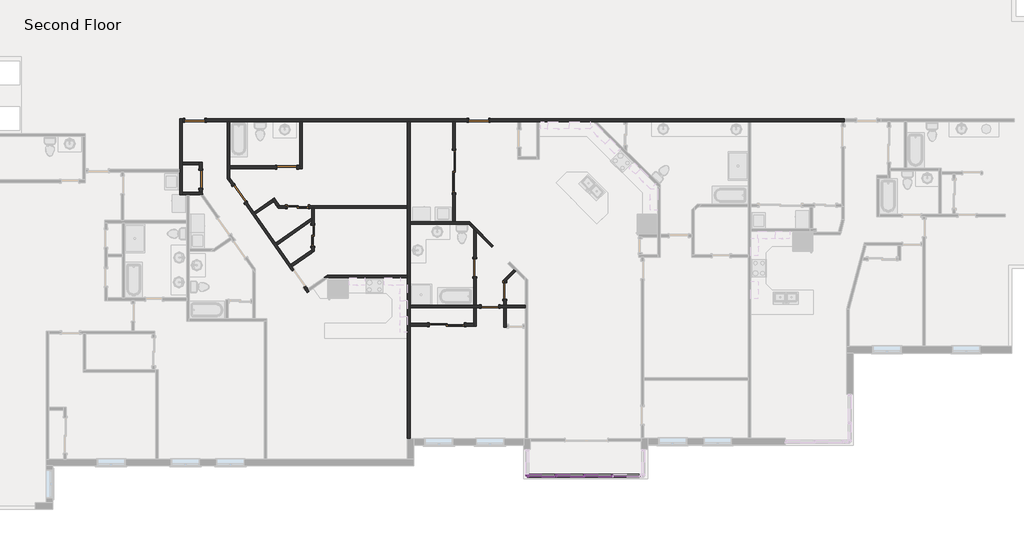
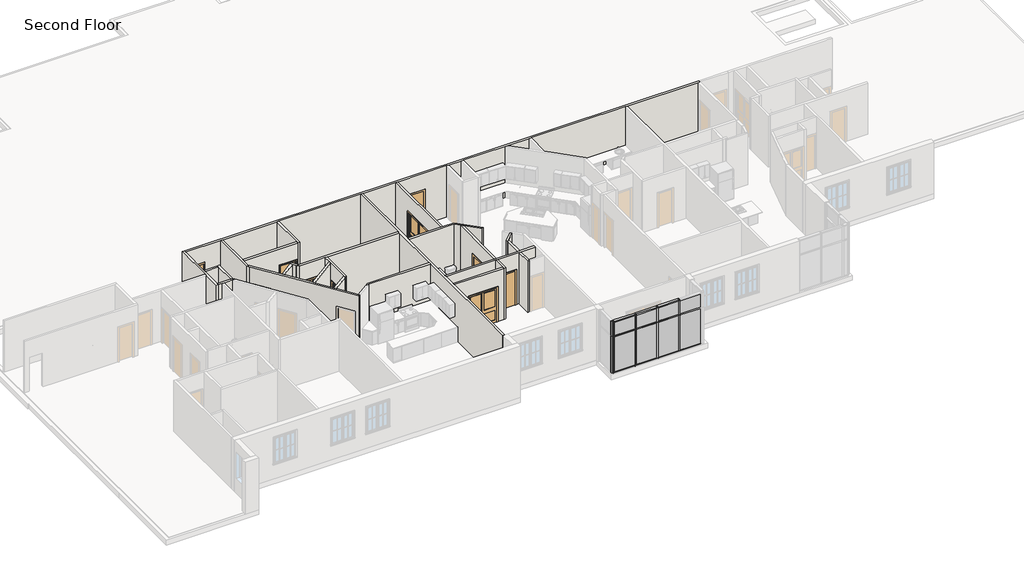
# One storey, part 3 of 17: 27 walls, 20 members, 12 doors, 8 plates.
"""IFC4 building model written with IfcOpenShell, lengths in millimetres."""

from ifc_helpers import new_model, si_unit, frame, origin, place, context, project, spatial, polyline, outline, extrude, faceted_brep, transform, mapped, element, save
from components import door_f2586ccf, door_d8f5dbb5, door_f2b275c1, door_825b8444, door_c29894e6, door_88c23cd7, door_2e7ec8be, door_caaf2a11, rectangular_mullion_rectangular_mullion_1_fa3625a1, rectangular_mullion_rectangular_mullion_1_7cbf0b94, rectangular_mullion_rectangular_mullion_1_6186cc23, rectangular_mullion_rectangular_mullion_1_049a2e78, rectangular_mullion_rectangular_mullion_1_a50b3cda, rectangular_mullion_rectangular_mullion_1_5cd4c5ac, system_panel_glazed_0ed27d1d, system_panel_glazed_134bacdb

model = new_model("IFC4")

# Units and contexts
model_context = context("Model", 3, world=origin())
ifc_project = project(units=[si_unit("LENGTHUNIT", "METRE", prefix="MILLI")], contexts=[model_context])

# Site, building, storey
site = spatial("IfcSite", under=ifc_project)
building = spatial("IfcBuilding", under=site)
storey = spatial("IfcBuildingStorey", under=building, Name="Second Floor", Elevation=3048.0)

# Doors
placement = place(None, origin())
door_shape = door_f2586ccf(model_context)
element("IfcDoor", 1, ObjectType="Single-Flush : 28\" x 80\"", at=placement, inside=storey, context=model_context, shape_type="MappedRepresentation", body=[
    mapped(door_shape, transform((31589.3040357, -12033.9392565, 3048.0), x_axis=(0.0, 1.0, 0.0), y_axis=(-1.0, 0.0, 0.0), z_axis=(0.0, 0.0, 1.0))),
])
door_2_shape = door_d8f5dbb5(model_context)
element("IfcDoor", 2, ObjectType="Single-Flush : 30\" x 80\"", at=placement, inside=storey, context=model_context, shape_type="MappedRepresentation", body=[
    mapped(door_2_shape, transform((18439.6602461, -7206.7219726, 3048.0), x_axis=(0.0, -1.0, 0.0), y_axis=(1.0, 0.0, 0.0), z_axis=(0.0, 0.0, 1.0))),
])
door_3_shape = door_f2b275c1(model_context)
element("IfcDoor", 3, ObjectType="Single-Flush : 30\" x 80\"", at=placement, inside=storey, context=model_context, shape_type="MappedRepresentation", body=[
    mapped(door_3_shape, transform((30941.6040357, -12707.1736347, 3048.0), x_axis=(1.0, 0.0, 0.0), y_axis=(0.0, 1.0, 0.0), z_axis=(0.0, 0.0, 1.0))),
])
element("IfcDoor", 4, ObjectType="Single-Flush : 30\" x 80\"", at=placement, inside=storey, context=model_context, shape_type="MappedRepresentation", body=[
    mapped(door_3_shape, transform((30293.9040357, -11030.7736347, 3048.0), x_axis=(0.0, -1.0, 0.0), y_axis=(1.0, 0.0, 0.0), z_axis=(0.0, 0.0, 1.0))),
])
door_4_shape = door_825b8444(model_context)
element("IfcDoor", 5, ObjectType="Single-Flush : 34\" x 80\"", at=placement, inside=storey, context=model_context, shape_type="MappedRepresentation", body=[
    mapped(door_4_shape, transform((20114.7748093, -7834.753233, 3048.0), x_axis=(-0.5735764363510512, 0.8191520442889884, 0.0), y_axis=(-0.8191520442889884, -0.5735764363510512, 0.0), z_axis=(0.0, 0.0, 1.0))),
])
door_5_shape = door_c29894e6(model_context)
element("IfcDoor", 6, ObjectType="Single-Flush : 34\" x 80\"", at=placement, inside=storey, context=model_context, shape_type="MappedRepresentation", body=[
    mapped(door_5_shape, transform((18188.1416991, -4651.3917963, 3048.0), x_axis=(-1.0, 0.0, 0.0), y_axis=(0.0, -1.0, 0.0), z_axis=(0.0, 0.0, 1.0))),
])
element("IfcDoor", 7, ObjectType="Single-Flush : 34\" x 80\"", at=placement, inside=storey, context=model_context, shape_type="MappedRepresentation", body=[
    mapped(door_5_shape, transform((22162.0691338, -6683.3917963, 3048.0), x_axis=(1.0, 0.0, 0.0), y_axis=(0.0, 1.0, 0.0), z_axis=(0.0, 0.0, 1.0))),
])
element("IfcDoor", 8, ObjectType="Single-Flush : 34\" x 80\"", at=placement, inside=storey, context=model_context, shape_type="MappedRepresentation", body=[
    mapped(door_5_shape, transform((30456.3297218, -4651.3917963, 3048.0), x_axis=(-1.0, 0.0, 0.0), y_axis=(0.0, -1.0, 0.0), z_axis=(0.0, 0.0, 1.0))),
])
door_6_shape = door_88c23cd7(model_context)
element("IfcDoor", 9, ObjectType="Sliding-Closet : 36\" x 80\"", at=placement, inside=storey, context=model_context, shape_type="MappedRepresentation", body=[
    mapped(door_6_shape, transform((23160.2196169, -9642.0427038, 3048.0), x_axis=(0.0, -1.0, 0.0), y_axis=(1.0, 0.0, 0.0), z_axis=(0.0, 0.0, 1.0))),
])
element("IfcDoor", 10, ObjectType="Sliding-Closet : 36\" x 80\"", at=placement, inside=storey, context=model_context, shape_type="MappedRepresentation", body=[
    mapped(door_6_shape, transform((22626.8196169, -8270.4427038, 3048.0), x_axis=(-1.0, 0.0, 0.0), y_axis=(0.0, -1.0, 0.0), z_axis=(0.0, 0.0, 1.0))),
])
door_7_shape = door_2e7ec8be(model_context)
element("IfcDoor", 11, ObjectType="Sliding-Closet : 60\" x 80\"", at=placement, inside=storey, context=model_context, shape_type="MappedRepresentation", body=[
    mapped(door_7_shape, transform((29074.7040357, -13371.9064679, 3048.0), x_axis=(-1.0, 0.0, 0.0), y_axis=(0.0, -1.0, 0.0), z_axis=(0.0, 0.0, 1.0))),
])
door_8_shape = door_caaf2a11(model_context)
element("IfcDoor", 12, ObjectType="Sliding-Closet : 72\" x 80\"", at=placement, inside=storey, context=model_context, shape_type="MappedRepresentation", body=[
    mapped(door_8_shape, transform((29262.5297218, -6874.7901817, 3048.0), x_axis=(0.0, -1.0, 0.0), y_axis=(1.0, 0.0, 0.0), z_axis=(0.0, 0.0, 1.0))),
])

# Members
rectangular_mullion_rectangular_mullion_1_shape = rectangular_mullion_rectangular_mullion_1_fa3625a1(model_context)
element("IfcMember", 13, ObjectType="Rectangular Mullion : Rectangular Mullion 1", at=placement, inside=storey, context=model_context, shape_type="MappedRepresentation", body=[
    mapped(rectangular_mullion_rectangular_mullion_1_shape, transform((33772.8620392, -20021.7015972, 6096.0), x_axis=(0.0, 0.0, 1.0), y_axis=(0.0, -1.0, 0.0), z_axis=(1.0, 0.0, 0.0))),
])
element("IfcMember", 14, ObjectType="Rectangular Mullion : Rectangular Mullion 1", at=placement, inside=storey, context=model_context, shape_type="MappedRepresentation", body=[
    mapped(rectangular_mullion_rectangular_mullion_1_shape, transform((34992.0620392, -20021.7015972, 6096.0), x_axis=(0.0, 0.0, 1.0), y_axis=(0.0, -1.0, 0.0), z_axis=(1.0, 0.0, 0.0))),
])
element("IfcMember", 15, ObjectType="Rectangular Mullion : Rectangular Mullion 1", at=placement, inside=storey, context=model_context, shape_type="MappedRepresentation", body=[
    mapped(rectangular_mullion_rectangular_mullion_1_shape, transform((36211.2620392, -20021.7015972, 6096.0), x_axis=(0.0, 0.0, 1.0), y_axis=(0.0, -1.0, 0.0), z_axis=(1.0, 0.0, 0.0))),
])
element("IfcMember", 16, ObjectType="Rectangular Mullion : Rectangular Mullion 1", at=placement, inside=storey, context=model_context, shape_type="MappedRepresentation", body=[
    mapped(rectangular_mullion_rectangular_mullion_1_shape, transform((32617.1620389, -20021.7015972, 3048.0), x_axis=(0.0, 0.0, -1.0), y_axis=(0.0, -1.0, 0.0), z_axis=(-1.0, 0.0, 0.0))),
])
element("IfcMember", 17, ObjectType="Rectangular Mullion : Rectangular Mullion 1", at=placement, inside=storey, context=model_context, shape_type="MappedRepresentation", body=[
    mapped(rectangular_mullion_rectangular_mullion_1_shape, transform((33836.3620392, -20021.7015972, 3048.0), x_axis=(0.0, 0.0, -1.0), y_axis=(0.0, -1.0, 0.0), z_axis=(-1.0, 0.0, 0.0))),
])
element("IfcMember", 18, ObjectType="Rectangular Mullion : Rectangular Mullion 1", at=placement, inside=storey, context=model_context, shape_type="MappedRepresentation", body=[
    mapped(rectangular_mullion_rectangular_mullion_1_shape, transform((35055.5620392, -20021.7015972, 3048.0), x_axis=(0.0, 0.0, -1.0), y_axis=(0.0, -1.0, 0.0), z_axis=(-1.0, 0.0, 0.0))),
])
element("IfcMember", 19, ObjectType="Rectangular Mullion : Rectangular Mullion 1", at=placement, inside=storey, context=model_context, shape_type="MappedRepresentation", body=[
    mapped(rectangular_mullion_rectangular_mullion_1_shape, transform((36274.7620392, -20021.7015972, 3048.0), x_axis=(0.0, 0.0, -1.0), y_axis=(0.0, -1.0, 0.0), z_axis=(-1.0, 0.0, 0.0))),
])
rectangular_mullion_rectangular_mullion_1_2_shape = rectangular_mullion_rectangular_mullion_1_7cbf0b94(model_context)
element("IfcMember", 20, ObjectType="Rectangular Mullion : Rectangular Mullion 1", at=placement, inside=storey, context=model_context, shape_type="MappedRepresentation", body=[
    mapped(rectangular_mullion_rectangular_mullion_1_2_shape, transform((33772.8620392, -20021.7015972, 5213.35), x_axis=(0.0, 0.0, 1.0), y_axis=(0.0, -1.0, 0.0), z_axis=(1.0, 0.0, 0.0))),
])
element("IfcMember", 21, ObjectType="Rectangular Mullion : Rectangular Mullion 1", at=placement, inside=storey, context=model_context, shape_type="MappedRepresentation", body=[
    mapped(rectangular_mullion_rectangular_mullion_1_2_shape, transform((34992.0620392, -20021.7015972, 5213.35), x_axis=(0.0, 0.0, 1.0), y_axis=(0.0, -1.0, 0.0), z_axis=(1.0, 0.0, 0.0))),
])
element("IfcMember", 22, ObjectType="Rectangular Mullion : Rectangular Mullion 1", at=placement, inside=storey, context=model_context, shape_type="MappedRepresentation", body=[
    mapped(rectangular_mullion_rectangular_mullion_1_2_shape, transform((36211.2620392, -20021.7015972, 5213.35), x_axis=(0.0, 0.0, 1.0), y_axis=(0.0, -1.0, 0.0), z_axis=(1.0, 0.0, 0.0))),
])
rectangular_mullion_rectangular_mullion_1_3_shape = rectangular_mullion_rectangular_mullion_1_6186cc23(model_context)
element("IfcMember", 23, ObjectType="Rectangular Mullion : Rectangular Mullion 1", at=placement, inside=storey, context=model_context, shape_type="MappedRepresentation", body=[
    mapped(rectangular_mullion_rectangular_mullion_1_3_shape, transform((33804.6120392, -20021.7015972, 3048.0), x_axis=(1.0, 0.0, 0.0), y_axis=(0.0, -1.0, 0.0), z_axis=(0.0, 0.0, -1.0))),
])
element("IfcMember", 24, ObjectType="Rectangular Mullion : Rectangular Mullion 1", at=placement, inside=storey, context=model_context, shape_type="MappedRepresentation", body=[
    mapped(rectangular_mullion_rectangular_mullion_1_3_shape, transform((35023.8120392, -20021.7015972, 3048.0), x_axis=(1.0, 0.0, 0.0), y_axis=(0.0, -1.0, 0.0), z_axis=(0.0, 0.0, -1.0))),
])
element("IfcMember", 25, ObjectType="Rectangular Mullion : Rectangular Mullion 1", at=placement, inside=storey, context=model_context, shape_type="MappedRepresentation", body=[
    mapped(rectangular_mullion_rectangular_mullion_1_3_shape, transform((36243.0120392, -20021.7015972, 3048.0), x_axis=(1.0, 0.0, 0.0), y_axis=(0.0, -1.0, 0.0), z_axis=(0.0, 0.0, -1.0))),
])
rectangular_mullion_rectangular_mullion_1_4_shape = rectangular_mullion_rectangular_mullion_1_049a2e78(model_context)
element("IfcMember", 26, ObjectType="Rectangular Mullion : Rectangular Mullion 1", at=placement, inside=storey, context=model_context, shape_type="MappedRepresentation", body=[
    mapped(rectangular_mullion_rectangular_mullion_1_4_shape, transform((33804.6120392, -20021.7015972, 5213.35), x_axis=(1.0, 0.0, 0.0), y_axis=(0.0, -1.0, 0.0), z_axis=(0.0, 0.0, -1.0))),
])
element("IfcMember", 27, ObjectType="Rectangular Mullion : Rectangular Mullion 1", at=placement, inside=storey, context=model_context, shape_type="MappedRepresentation", body=[
    mapped(rectangular_mullion_rectangular_mullion_1_4_shape, transform((35023.8120392, -20021.7015972, 5213.35), x_axis=(1.0, 0.0, 0.0), y_axis=(0.0, -1.0, 0.0), z_axis=(0.0, 0.0, -1.0))),
])
element("IfcMember", 28, ObjectType="Rectangular Mullion : Rectangular Mullion 1", at=placement, inside=storey, context=model_context, shape_type="MappedRepresentation", body=[
    mapped(rectangular_mullion_rectangular_mullion_1_4_shape, transform((36243.0120392, -20021.7015972, 5213.35), x_axis=(1.0, 0.0, 0.0), y_axis=(0.0, -1.0, 0.0), z_axis=(0.0, 0.0, -1.0))),
])
rectangular_mullion_rectangular_mullion_1_5_shape = rectangular_mullion_rectangular_mullion_1_a50b3cda(model_context)
element("IfcMember", 29, ObjectType="Rectangular Mullion : Rectangular Mullion 1", at=placement, inside=storey, context=model_context, shape_type="MappedRepresentation", body=[
    mapped(rectangular_mullion_rectangular_mullion_1_5_shape, transform((32553.6620389, -20021.7015972, 3048.0), x_axis=(0.0, -1.0, 0.0), y_axis=(-1.0, 0.0, 0.0), z_axis=(0.0, 0.0, -1.0))),
])
rectangular_mullion_rectangular_mullion_1_6_shape = rectangular_mullion_rectangular_mullion_1_5cd4c5ac(model_context)
element("IfcMember", 30, ObjectType="Rectangular Mullion : Rectangular Mullion 1", at=placement, inside=storey, context=model_context, shape_type="MappedRepresentation", body=[
    mapped(rectangular_mullion_rectangular_mullion_1_6_shape, transform((32553.6620389, -20021.7015972, 5213.35), x_axis=(0.0, -1.0, 0.0), y_axis=(-1.0, 0.0, 0.0), z_axis=(0.0, 0.0, -1.0))),
])
element("IfcMember", 31, ObjectType="Rectangular Mullion : Rectangular Mullion 1", at=placement, inside=storey, context=model_context, shape_type="MappedRepresentation", body=[
    mapped(rectangular_mullion_rectangular_mullion_1_6_shape, transform((32553.6620389, -20021.7015972, 6096.0), x_axis=(-1.0, 0.0, 0.0), y_axis=(0.0, -1.0, 0.0), z_axis=(0.0, 0.0, 1.0))),
])
element("IfcMember", 32, ObjectType="Rectangular Mullion : Rectangular Mullion 1", at=placement, inside=storey, context=model_context, shape_type="MappedRepresentation", body=[
    mapped(rectangular_mullion_rectangular_mullion_1_5_shape, transform((32553.6620389, -20021.7015972, 5213.35), x_axis=(-1.0, 0.0, 0.0), y_axis=(0.0, -1.0, 0.0), z_axis=(0.0, 0.0, 1.0))),
])

# Plates
system_panel_glazed_shape = system_panel_glazed_0ed27d1d(model_context)
element("IfcPlate", 33, ObjectType="System Panel : Glazed", at=placement, inside=storey, context=model_context, shape_type="MappedRepresentation", body=[
    mapped(system_panel_glazed_shape, transform((33195.012039, -20021.7015972, 3111.5), x_axis=(1.0, 0.0, 0.0), y_axis=(0.0, 1.0, 0.0), z_axis=(0.0, 0.0, 1.0))),
])
element("IfcPlate", 34, ObjectType="System Panel : Glazed", at=placement, inside=storey, context=model_context, shape_type="MappedRepresentation", body=[
    mapped(system_panel_glazed_shape, transform((34414.2120392, -20021.7015972, 3111.5), x_axis=(1.0, 0.0, 0.0), y_axis=(0.0, 1.0, 0.0), z_axis=(0.0, 0.0, 1.0))),
])
element("IfcPlate", 35, ObjectType="System Panel : Glazed", at=placement, inside=storey, context=model_context, shape_type="MappedRepresentation", body=[
    mapped(system_panel_glazed_shape, transform((35633.4120392, -20021.7015972, 3111.5), x_axis=(1.0, 0.0, 0.0), y_axis=(0.0, 1.0, 0.0), z_axis=(0.0, 0.0, 1.0))),
])
element("IfcPlate", 36, ObjectType="System Panel : Glazed", at=placement, inside=storey, context=model_context, shape_type="MappedRepresentation", body=[
    mapped(system_panel_glazed_shape, transform((36852.6120392, -20021.7015972, 3111.5), x_axis=(1.0, 0.0, 0.0), y_axis=(0.0, 1.0, 0.0), z_axis=(0.0, 0.0, 1.0))),
])
system_panel_glazed_2_shape = system_panel_glazed_134bacdb(model_context)
element("IfcPlate", 37, ObjectType="System Panel : Glazed", at=placement, inside=storey, context=model_context, shape_type="MappedRepresentation", body=[
    mapped(system_panel_glazed_2_shape, transform((33195.012039, -20021.7015972, 5245.1), x_axis=(1.0, 0.0, 0.0), y_axis=(0.0, 1.0, 0.0), z_axis=(0.0, 0.0, 1.0))),
])
element("IfcPlate", 38, ObjectType="System Panel : Glazed", at=placement, inside=storey, context=model_context, shape_type="MappedRepresentation", body=[
    mapped(system_panel_glazed_2_shape, transform((34414.2120392, -20021.7015972, 5245.1), x_axis=(1.0, 0.0, 0.0), y_axis=(0.0, 1.0, 0.0), z_axis=(0.0, 0.0, 1.0))),
])
element("IfcPlate", 39, ObjectType="System Panel : Glazed", at=placement, inside=storey, context=model_context, shape_type="MappedRepresentation", body=[
    mapped(system_panel_glazed_2_shape, transform((35633.4120392, -20021.7015972, 5245.1), x_axis=(1.0, 0.0, 0.0), y_axis=(0.0, 1.0, 0.0), z_axis=(0.0, 0.0, 1.0))),
])
element("IfcPlate", 40, ObjectType="System Panel : Glazed", at=placement, inside=storey, context=model_context, shape_type="MappedRepresentation", body=[
    mapped(system_panel_glazed_2_shape, transform((36852.6120392, -20021.7015972, 5245.1), x_axis=(1.0, 0.0, 0.0), y_axis=(0.0, 1.0, 0.0), z_axis=(0.0, 0.0, 1.0))),
])

# Walls
element("IfcWall", 41, ObjectType="Interior - 4 1/2\" Partition", at=placement, inside=storey, context=model_context, shape_type="Brep", body=[
    faceted_brep([(17521.3916991, -4594.2417963, 3048.0), (17521.3916991, -6779.3712391, 3048.0), (17521.3916991, -6893.6712391, 3048.0), (17521.3916991, -7873.4719726, 3048.0), (17521.3916991, -7873.4719726, 6096.0), (17521.3916991, -6893.6712391, 6096.0), (17521.3916991, -6779.3712391, 6096.0), (17521.3916991, -4594.2417963, 6096.0), (17635.6916991, -4594.2417963, 3048.0), (17635.6916991, -4594.2417963, 6096.0), (17635.6916991, -4708.5417963, 6096.0), (17635.6916991, -6473.8417963, 6096.0), (17635.6916991, -6588.1417963, 6096.0), (17635.6916991, -7759.1719726, 6096.0), (17635.6916991, -7873.4719726, 6096.0), (17635.6916991, -7873.4719726, 3048.0), (17635.6916991, -7759.1719726, 3048.0), (17635.6916991, -6588.1417963, 3048.0), (17635.6916991, -6473.8417963, 3048.0), (17635.6916991, -4708.5417963, 3048.0)], [[[0, 1, 2, 3, 4, 5, 6, 7]], [[8, 9, 10, 11, 12, 13, 14, 15, 16, 17, 18, 19]], [[3, 2, 1, 0, 8, 19, 18, 17, 16, 15]], [[7, 6, 5, 4, 14, 13, 12, 11, 10, 9]], [[0, 7, 9, 8]], [[4, 3, 15, 14]]]),
])
element("IfcWall", 42, ObjectType="Interior - 4 1/2\" Partition", at=placement, inside=storey, context=model_context, shape_type="Brep", body=[
    faceted_brep([(17635.6916991, -7873.4719726, 3048.0), (17837.7191338, -7873.4719726, 3048.0), (17952.0191338, -7873.4719726, 3048.0), (18417.502921, -7873.4719726, 3048.0), (18557.0374565, -7873.4719726, 3048.0), (18557.0374565, -7873.4719726, 6096.0), (18417.502921, -7873.4719726, 6096.0), (17952.0191338, -7873.4719726, 6096.0), (17837.7191338, -7873.4719726, 6096.0), (17635.6916991, -7873.4719726, 6096.0), (17635.6916991, -7759.1719726, 3048.0), (17635.6916991, -7759.1719726, 6096.0), (18382.5102461, -7759.1719726, 6096.0), (18477.0037349, -7759.1719726, 6096.0), (18477.0037349, -7759.1719726, 3048.0), (18382.5102461, -7759.1719726, 3048.0), (18496.8102461, -7787.4586021, 3048.0), (18496.8102461, -7787.4586021, 6096.0)], [[[0, 1, 2, 3, 4, 5, 6, 7, 8, 9]], [[10, 11, 12, 13, 14, 15]], [[4, 3, 2, 1, 0, 10, 15, 14, 16]], [[9, 8, 7, 6, 5, 17, 13, 12, 11]], [[5, 4, 16, 14, 13, 17]], [[0, 9, 11, 10]]]),
])
element("IfcWall", 43, ObjectType="Interior - 4 1/2\" Partition", at=placement, inside=storey, context=model_context, shape_type="Brep", body=[
    faceted_brep([(18619.9416991, -4708.5417963, 3048.0), (19583.8594272, -4708.5417963, 3048.0), (19698.1594272, -4708.5417963, 3048.0), (22714.5191338, -4708.5417963, 3048.0), (22828.8191338, -4708.5417963, 3048.0), (27373.7365862, -4708.5417963, 3048.0), (27488.0365862, -4708.5417963, 3048.0), (29332.3797218, -4708.5417963, 3048.0), (29446.6797218, -4708.5417963, 3048.0), (30024.5297218, -4708.5417963, 3048.0), (30024.5297218, -4708.5417963, 5080.0), (30888.1297218, -4708.5417963, 5080.0), (30888.1297218, -4708.5417963, 3048.0), (32155.9966966, -4708.5417963, 3048.0), (32270.2966966, -4708.5417963, 3048.0), (32968.7966966, -4708.5417963, 3048.0), (33083.0966966, -4708.5417963, 3048.0), (35406.7151666, -4708.5417963, 3048.0), (35568.3597768, -4708.5417963, 3048.0), (36748.8505062, -4708.5417963, 3048.0), (36863.1505062, -4708.5417963, 3048.0), (42109.9470292, -4708.5417963, 3048.0), (42224.2470292, -4708.5417963, 3048.0), (46162.3050668, -4708.5417963, 3048.0), (46276.6050668, -4708.5417963, 3048.0), (46276.6050668, -4708.5417963, 6096.0), (46162.3050668, -4708.5417963, 6096.0), (42224.2470292, -4708.5417963, 6096.0), (42109.9470292, -4708.5417963, 6096.0), (36863.1505062, -4708.5417963, 6096.0), (36748.8505062, -4708.5417963, 6096.0), (35568.3597768, -4708.5417963, 6096.0), (35406.7151666, -4708.5417963, 6096.0), (33083.0966966, -4708.5417963, 6096.0), (32968.7966966, -4708.5417963, 6096.0), (32270.2966966, -4708.5417963, 6096.0), (32155.9966966, -4708.5417963, 6096.0), (29446.6797218, -4708.5417963, 6096.0), (29332.3797218, -4708.5417963, 6096.0), (27488.0365862, -4708.5417963, 6096.0), (27373.7365862, -4708.5417963, 6096.0), (22828.8191338, -4708.5417963, 6096.0), (22714.5191338, -4708.5417963, 6096.0), (19698.1594272, -4708.5417963, 6096.0), (19583.8594272, -4708.5417963, 6096.0), (17635.6916991, -4708.5417963, 6096.0), (17635.6916991, -4708.5417963, 3048.0), (17756.3416991, -4708.5417963, 3048.0), (17756.3416991, -4708.5417963, 5080.0), (18619.9416991, -4708.5417963, 5080.0), (30024.5297218, -4594.2417963, 5080.0), (30024.5297218, -4594.2417963, 3048.0), (18619.9416991, -4594.2417963, 3048.0), (18619.9416991, -4594.2417963, 5080.0), (17756.3416991, -4594.2417963, 5080.0), (17756.3416991, -4594.2417963, 3048.0), (17635.6916991, -4594.2417963, 3048.0), (17635.6916991, -4594.2417963, 6096.0), (46276.6050668, -4594.2417963, 6096.0), (46276.6050668, -4594.2417963, 3048.0), (30888.1297218, -4594.2417963, 3048.0), (30888.1297218, -4594.2417963, 5080.0)], [[[0, 1, 2, 3, 4, 5, 6, 7, 8, 9, 10, 11, 12, 13, 14, 15, 16, 17, 18, 19, 20, 21, 22, 23, 24, 25, 26, 27, 28, 29, 30, 31, 32, 33, 34, 35, 36, 37, 38, 39, 40, 41, 42, 43, 44, 45, 46, 47, 48, 49]], [[50, 51, 52, 53, 54, 55, 56, 57, 58, 59, 60, 61]], [[56, 55, 47, 46]], [[60, 59, 24, 23, 22, 21, 20, 19, 18, 17, 16, 15, 14, 13, 12]], [[52, 51, 9, 8, 7, 6, 5, 4, 3, 2, 1, 0]], [[45, 44, 43, 42, 41, 40, 39, 38, 37, 36, 35, 34, 33, 32, 31, 30, 29, 28, 27, 26, 25, 58, 57]], [[48, 47, 55, 54]], [[49, 48, 54, 53]], [[0, 49, 53, 52]], [[10, 9, 51, 50]], [[11, 10, 50, 61]], [[12, 11, 61, 60]], [[25, 24, 59, 58]], [[46, 45, 57, 56]]]),
])
element("IfcWall", 44, ObjectType="Interior - 4 1/2\" Partition", at=placement, inside=storey, context=model_context, shape_type="Brep", body=[
    faceted_brep([(27373.7365862, -4708.5417963, 3048.0), (27373.7365862, -8340.2927038, 3048.0), (27373.7365862, -8454.5927038, 3048.0), (27373.7365862, -11354.6236347, 3048.0), (27373.7365862, -11468.9236347, 3048.0), (27373.7365862, -18426.2691587, 3048.0), (27373.7365862, -18426.2691587, 6096.0), (27373.7365862, -11468.9236347, 6096.0), (27373.7365862, -11354.6236347, 6096.0), (27373.7365862, -8454.5927038, 6096.0), (27373.7365862, -8340.2927038, 6096.0), (27373.7365862, -4708.5417963, 6096.0), (27488.0365862, -4708.5417963, 3048.0), (27488.0365862, -4708.5417963, 6096.0), (27488.0365862, -9041.0385671, 6096.0), (27488.0365862, -9155.3385671, 6096.0), (27488.0365862, -12650.0236347, 6096.0), (27488.0365862, -12764.3236347, 6096.0), (27488.0365862, -13441.7564679, 6096.0), (27488.0365862, -13556.0564679, 6096.0), (27488.0365862, -18426.2691587, 6096.0), (27488.0365862, -18426.2691587, 3048.0), (27488.0365862, -13556.0564679, 3048.0), (27488.0365862, -13441.7564679, 3048.0), (27488.0365862, -12764.3236347, 3048.0), (27488.0365862, -12650.0236347, 3048.0), (27488.0365862, -9155.3385671, 3048.0), (27488.0365862, -9041.0385671, 3048.0)], [[[0, 1, 2, 3, 4, 5, 6, 7, 8, 9, 10, 11]], [[12, 13, 14, 15, 16, 17, 18, 19, 20, 21, 22, 23, 24, 25, 26, 27]], [[5, 4, 3, 2, 1, 0, 12, 27, 26, 25, 24, 23, 22, 21]], [[11, 10, 9, 8, 7, 6, 20, 19, 18, 17, 16, 15, 14, 13]], [[0, 11, 13, 12]], [[6, 5, 21, 20]]]),
])
element("IfcWall", 45, ObjectType="Interior - 4 1/2\" Partition", at=placement, inside=storey, context=model_context, shape_type="Brep", body=[
    faceted_brep([(22714.5191338, -4708.5417963, 3048.0), (22714.5191338, -6626.2417963, 3048.0), (22714.5191338, -6740.5417963, 3048.0), (22714.5191338, -6740.5417963, 6096.0), (22714.5191338, -6626.2417963, 6096.0), (22714.5191338, -4708.5417963, 6096.0), (22828.8191338, -4708.5417963, 3048.0), (22828.8191338, -4708.5417963, 6096.0), (22828.8191338, -6740.5417963, 6096.0), (22828.8191338, -6740.5417963, 3048.0)], [[[0, 1, 2, 3, 4, 5]], [[6, 7, 8, 9]], [[2, 1, 0, 6, 9]], [[5, 4, 3, 8, 7]], [[3, 2, 9, 8]], [[0, 5, 7, 6]]]),
])
element("IfcWall", 46, ObjectType="Interior - 4 1/2\" Partition", at=placement, inside=storey, context=model_context, shape_type="SweptSolid", body=[
    extrude(outline(polyline([(5080.0, 22593.8691338), (3048.0, 22593.8691338), (3048.0, 22714.5191338), (6096.0, 22714.5191338), (6096.0, 19698.1594272), (3048.0, 19698.1594272), (3048.0, 21730.2691338), (5080.0, 21730.2691338), (5080.0, 22593.8691338)])), frame((0.0, -6740.5417963, 0.0), z_axis=(0.0, 1.0, 0.0), x_axis=(0.0, 0.0, 1.0)), (0.0, 0.0, 1.0), 114.3),
])
element("IfcWall", 47, ObjectType="Interior - 4 1/2\" Partition", at=placement, inside=storey, context=model_context, shape_type="Brep", body=[
    faceted_brep([(19698.1594272, -7339.4027898, 3048.0), (19698.1594272, -7140.1268211, 3048.0), (19698.1594272, -6740.5417963, 3048.0), (19698.1594272, -6626.2417963, 3048.0), (19698.1594272, -4708.5417963, 3048.0), (19698.1594272, -4708.5417963, 6096.0), (19698.1594272, -6626.2417963, 6096.0), (19698.1594272, -6740.5417963, 6096.0), (19698.1594272, -7140.1268211, 6096.0), (19698.1594272, -7339.4027898, 6096.0), (19583.8594272, -7176.1654727, 3048.0), (19583.8594272, -7176.1654727, 6096.0), (19583.8594272, -4708.5417963, 6096.0), (19583.8594272, -4708.5417963, 3048.0)], [[[0, 1, 2, 3, 4, 5, 6, 7, 8, 9]], [[10, 11, 12, 13]], [[4, 3, 2, 1, 0, 10, 13]], [[9, 8, 7, 6, 5, 12, 11]], [[0, 9, 11, 10]], [[5, 4, 13, 12]]]),
])
element("IfcWall", 48, ObjectType="Interior - 4 1/2\" Partition", at=placement, inside=storey, context=model_context, shape_type="Brep", body=[
    faceted_brep([(22169.6196169, -8340.2927038, 5080.0), (22169.6196169, -8340.2927038, 3048.0), (21847.2369931, -8340.2927038, 3048.0), (21707.7024576, -8340.2927038, 3048.0), (21707.7024576, -8340.2927038, 6096.0), (21847.2369931, -8340.2927038, 6096.0), (27373.7365862, -8340.2927038, 6096.0), (27373.7365862, -8340.2927038, 3048.0), (23084.0196169, -8340.2927038, 3048.0), (23084.0196169, -8340.2927038, 5080.0), (21787.7361792, -8454.5927038, 3048.0), (22169.6196169, -8454.5927038, 3048.0), (22169.6196169, -8454.5927038, 5080.0), (23084.0196169, -8454.5927038, 5080.0), (23084.0196169, -8454.5927038, 3048.0), (23230.0696169, -8454.5927038, 3048.0), (23344.3696169, -8454.5927038, 3048.0), (27373.7365862, -8454.5927038, 3048.0), (27373.7365862, -8454.5927038, 6096.0), (23344.3696169, -8454.5927038, 6096.0), (23230.0696169, -8454.5927038, 6096.0), (21787.7361792, -8454.5927038, 6096.0)], [[[0, 1, 2, 3, 4, 5, 6, 7, 8, 9]], [[10, 11, 12, 13, 14, 15, 16, 17, 18, 19, 20, 21]], [[8, 7, 17, 16, 15, 14]], [[3, 2, 1, 11, 10]], [[6, 5, 4, 21, 20, 19, 18]], [[14, 13, 9, 8]], [[12, 11, 1, 0]], [[13, 12, 0, 9]], [[4, 3, 10, 21]], [[7, 6, 18, 17]]]),
])
element("IfcWall", 49, ObjectType="Interior - 4 1/2\" Partition", at=placement, inside=storey, context=model_context, shape_type="Brep", body=[
    faceted_brep([(21847.2369931, -8340.2927038, 3048.0), (21618.8599772, -8014.1365238, 3048.0), (21618.8599772, -8014.1365238, 6096.0), (21847.2369931, -8340.2927038, 6096.0), (21707.7024576, -8340.2927038, 3048.0), (21707.7024576, -8340.2927038, 6096.0), (21590.7906853, -8173.3253892, 6096.0), (21525.2308986, -8079.6963105, 6096.0), (21525.2308986, -8079.6963105, 3048.0), (21590.7906853, -8173.3253892, 3048.0)], [[[0, 1, 2, 3]], [[4, 5, 6, 7, 8, 9]], [[1, 0, 4, 9, 8]], [[3, 2, 7, 6, 5]], [[2, 1, 8, 7]], [[0, 3, 5, 4]]]),
])
element("IfcWall", 50, ObjectType="Interior - 4 1/2\" Partition", at=placement, inside=storey, context=model_context, shape_type="SweptSolid", body=[
    extrude(outline(polyline([(20740.7007976, -8629.0302012), (21525.2308986, -8079.6963105), (21590.7906853, -8173.3253892), (20806.2605843, -8722.6592798), (20740.7007976, -8629.0302012)])), frame((0.0, 0.0, 3048.0), z_axis=(0.0, 0.0, 1.0), x_axis=(1.0, 0.0, 0.0)), (0.0, 0.0, 1.0), 3048.0),
])
element("IfcWall", 51, ObjectType="Interior - 4 1/2\" Partition", at=placement, inside=storey, context=model_context, shape_type="Brep", body=[
    faceted_brep([(22880.7389864, -11884.5974436, 5080.0), (22880.7389864, -11884.5974436, 3048.0), (23036.0836883, -12106.45267, 3048.0), (23036.0836883, -12106.45267, 6096.0), (19698.1594272, -7339.4027898, 6096.0), (19698.1594272, -7339.4027898, 3048.0), (19820.2899648, -7513.8232736, 3048.0), (19820.2899648, -7513.8232736, 5080.0), (20315.6305752, -8221.2429791, 5080.0), (20315.6305752, -8221.2429791, 3048.0), (22385.398376, -11177.1777382, 3048.0), (22385.398376, -11177.1777382, 5080.0), (23129.712767, -12040.8928833, 3048.0), (23064.1529803, -11947.2638046, 3048.0), (22974.3680651, -11819.0376569, 3048.0), (22974.3680651, -11819.0376569, 5080.0), (22479.0274547, -11111.6179515, 5080.0), (22479.0274547, -11111.6179515, 3048.0), (22389.2425394, -10983.3918038, 3048.0), (22323.6827528, -10889.7627251, 3048.0), (21738.045474, -10053.3860128, 3048.0), (21672.4856873, -9959.7569341, 3048.0), (20806.2605843, -8722.6592798, 3048.0), (20740.7007976, -8629.0302012, 3048.0), (20409.2596539, -8155.6831924, 3048.0), (20409.2596539, -8155.6831924, 5080.0), (19913.9190434, -7448.2634869, 5080.0), (19913.9190434, -7448.2634869, 3048.0), (19698.1594272, -7140.1268211, 3048.0), (19698.1594272, -7140.1268211, 6096.0), (20740.7007976, -8629.0302012, 6096.0), (20806.2605843, -8722.6592798, 6096.0), (21672.4856873, -9959.7569341, 6096.0), (21738.045474, -10053.3860128, 6096.0), (22323.6827528, -10889.7627251, 6096.0), (22389.2425394, -10983.3918038, 6096.0), (23064.1529803, -11947.2638046, 6096.0), (23129.712767, -12040.8928833, 6096.0)], [[[0, 1, 2, 3, 4, 5, 6, 7, 8, 9, 10, 11]], [[12, 13, 14, 15, 16, 17, 18, 19, 20, 21, 22, 23, 24, 25, 26, 27, 28, 29, 30, 31, 32, 33, 34, 35, 36, 37]], [[28, 27, 6, 5]], [[10, 9, 24, 23, 22, 21, 20, 19, 18, 17]], [[2, 1, 14, 13, 12]], [[4, 3, 37, 36, 35, 34, 33, 32, 31, 30, 29]], [[7, 6, 27, 26]], [[8, 7, 26, 25]], [[9, 8, 25, 24]], [[15, 14, 1, 0]], [[16, 15, 0, 11]], [[17, 16, 11, 10]], [[3, 2, 12, 37]], [[5, 4, 29, 28]]]),
])
element("IfcWall", 52, ObjectType="Interior - 4 1/2\" Partition", at=placement, inside=storey, context=model_context, shape_type="SweptSolid", body=[
    extrude(outline(polyline([(23230.0696169, -9008.6594608), (21738.045474, -10053.3860128), (21672.4856873, -9959.7569341), (23230.0696169, -8869.1249253), (23230.0696169, -9008.6594608)])), frame((0.0, 0.0, 3048.0), z_axis=(0.0, 0.0, 1.0), x_axis=(1.0, 0.0, 0.0)), (0.0, 0.0, 1.0), 3048.0),
])
element("IfcWall", 53, ObjectType="Interior - 4 1/2\" Partition", at=placement, inside=storey, context=model_context, shape_type="Brep", body=[
    faceted_brep([(23230.0696169, -10099.2427038, 5080.0), (23230.0696169, -10099.2427038, 3048.0), (23230.0696169, -10255.1038104, 3048.0), (23230.0696169, -10394.6383458, 3048.0), (23230.0696169, -10394.6383458, 6096.0), (23230.0696169, -10255.1038104, 6096.0), (23230.0696169, -9008.6594608, 6096.0), (23230.0696169, -8869.1249253, 6096.0), (23230.0696169, -8454.5927038, 6096.0), (23230.0696169, -8454.5927038, 3048.0), (23230.0696169, -8869.1249253, 3048.0), (23230.0696169, -9008.6594608, 3048.0), (23230.0696169, -9184.8427038, 3048.0), (23230.0696169, -9184.8427038, 5080.0), (23344.3696169, -10314.6046242, 3048.0), (23344.3696169, -10099.2427038, 3048.0), (23344.3696169, -10099.2427038, 5080.0), (23344.3696169, -9184.8427038, 5080.0), (23344.3696169, -9184.8427038, 3048.0), (23344.3696169, -8454.5927038, 3048.0), (23344.3696169, -8454.5927038, 6096.0), (23344.3696169, -10314.6046242, 6096.0)], [[[0, 1, 2, 3, 4, 5, 6, 7, 8, 9, 10, 11, 12, 13]], [[14, 15, 16, 17, 18, 19, 20, 21]], [[12, 11, 10, 9, 19, 18]], [[3, 2, 1, 15, 14]], [[8, 7, 6, 5, 4, 21, 20]], [[18, 17, 13, 12]], [[16, 15, 1, 0]], [[17, 16, 0, 13]], [[4, 3, 14, 21]], [[9, 8, 20, 19]]]),
])
element("IfcWall", 54, ObjectType="Interior - 4 1/2\" Partition", at=placement, inside=storey, context=model_context, shape_type="SweptSolid", body=[
    extrude(outline(polyline([(22323.6827528, -10889.7627251), (23230.0696169, -10255.1038104), (23230.0696169, -10394.6383458), (22389.2425394, -10983.3918038), (22323.6827528, -10889.7627251)])), frame((0.0, 0.0, 3048.0), z_axis=(0.0, 0.0, 1.0), x_axis=(1.0, 0.0, 0.0)), (0.0, 0.0, 1.0), 3048.0),
])
element("IfcWall", 55, ObjectType="Interior - 4 1/2\" Partition", at=placement, inside=storey, context=model_context, shape_type="SweptSolid", body=[
    extrude(outline(polyline([(18382.5102461, -6588.1417963), (17635.6916991, -6588.1417963), (17635.6916991, -6473.8417963), (18382.5102461, -6473.8417963), (18382.5102461, -6588.1417963)])), frame((0.0, 0.0, 3048.0), z_axis=(0.0, 0.0, 1.0), x_axis=(1.0, 0.0, 0.0)), (0.0, 0.0, 1.0), 3048.0),
])
element("IfcWall", 56, ObjectType="Interior - 4 1/2\" Partition", at=placement, inside=storey, context=model_context, shape_type="Brep", body=[
    faceted_brep([(18382.5102461, -7587.7219726, 5080.0), (18382.5102461, -7587.7219726, 3048.0), (18382.5102461, -7759.1719726, 3048.0), (18382.5102461, -7759.1719726, 6096.0), (18382.5102461, -6588.1417963, 6096.0), (18382.5102461, -6473.8417963, 6096.0), (18382.5102461, -6473.8417963, 3048.0), (18382.5102461, -6588.1417963, 3048.0), (18382.5102461, -6825.7219726, 3048.0), (18382.5102461, -6825.7219726, 5080.0), (18496.8102461, -7787.4586021, 3048.0), (18496.8102461, -7587.7219726, 3048.0), (18496.8102461, -7587.7219726, 5080.0), (18496.8102461, -6825.7219726, 5080.0), (18496.8102461, -6825.7219726, 3048.0), (18496.8102461, -6473.8417963, 3048.0), (18496.8102461, -6473.8417963, 6096.0), (18496.8102461, -7787.4586021, 6096.0), (18477.0037349, -7759.1719726, 3048.0), (18477.0037349, -7759.1719726, 6096.0)], [[[0, 1, 2, 3, 4, 5, 6, 7, 8, 9]], [[10, 11, 12, 13, 14, 15, 16, 17]], [[2, 1, 11, 10, 18]], [[8, 7, 6, 15, 14]], [[5, 4, 3, 19, 17, 16]], [[12, 11, 1, 0]], [[13, 12, 0, 9]], [[14, 13, 9, 8]], [[6, 5, 16, 15]], [[3, 2, 18, 19]], [[18, 10, 17, 19]]]),
])
element("IfcWall", 57, ObjectType="Interior - 4 1/2\" Partition", at=placement, inside=storey, context=model_context, shape_type="Brep", body=[
    faceted_brep([(27373.7365862, -11354.6236347, 3048.0), (23910.5308577, -11354.6236347, 3048.0), (23910.5308577, -11354.6236347, 6096.0), (27373.7365862, -11354.6236347, 6096.0), (27373.7365862, -11468.9236347, 3048.0), (27373.7365862, -11468.9236347, 6096.0), (23946.5695093, -11468.9236347, 6096.0), (23747.2935405, -11468.9236347, 6096.0), (23747.2935405, -11468.9236347, 3048.0), (23946.5695093, -11468.9236347, 3048.0)], [[[0, 1, 2, 3]], [[4, 5, 6, 7, 8, 9]], [[1, 0, 4, 9, 8]], [[3, 2, 7, 6, 5]], [[2, 1, 8, 7]], [[0, 3, 5, 4]]]),
])
element("IfcWall", 58, ObjectType="Interior - 4 1/2\" Partition", at=placement, inside=storey, context=model_context, shape_type="SweptSolid", body=[
    extrude(outline(polyline([(-7789.1901817, 5080.0), (-7789.1901817, 3048.0), (-9041.0385671, 3048.0), (-9041.0385671, 6096.0), (-4708.5417963, 6096.0), (-4708.5417963, 3048.0), (-5960.3901817, 3048.0), (-5960.3901817, 5080.0), (-7789.1901817, 5080.0)])), frame((29332.3797218, 0.0, 0.0), z_axis=(1.0, 0.0, 0.0), x_axis=(0.0, 1.0, 0.0)), (0.0, 0.0, 1.0), 114.3),
])
element("IfcWall", 59, ObjectType="Interior - 4 1/2\" Partition", at=placement, inside=storey, context=model_context, shape_type="Brep", body=[
    faceted_brep([(30068.0180742, -9041.0385671, 3048.0), (29446.6797218, -9041.0385671, 3048.0), (29332.3797218, -9041.0385671, 3048.0), (27488.0365862, -9041.0385671, 3048.0), (27488.0365862, -9041.0385671, 6096.0), (29332.3797218, -9041.0385671, 6096.0), (29446.6797218, -9041.0385671, 6096.0), (30068.0180742, -9041.0385671, 6096.0), (30182.3180742, -9155.3385671, 3048.0), (30182.3180742, -9155.3385671, 6096.0), (30020.673464, -9155.3385671, 6096.0), (27488.0365862, -9155.3385671, 6096.0), (27488.0365862, -9155.3385671, 3048.0), (30020.673464, -9155.3385671, 3048.0)], [[[0, 1, 2, 3, 4, 5, 6, 7]], [[8, 9, 10, 11, 12, 13]], [[3, 2, 1, 0, 8, 13, 12]], [[7, 6, 5, 4, 11, 10, 9]], [[0, 7, 9, 8]], [[4, 3, 12, 11]]]),
])
element("IfcWall", 60, ObjectType="Interior - 4 1/2\" Partition", at=placement, inside=storey, context=model_context, shape_type="Brep", body=[
    faceted_brep([(31975.277942, -11109.9430451, 3048.0), (31532.1540357, -11553.0669515, 3048.0), (31532.1540357, -11553.0669515, 6096.0), (31975.277942, -11109.9430451, 6096.0), (32056.1002471, -11190.7653502, 6096.0), (31646.4540357, -11600.4115616, 6096.0), (31532.1540357, -11714.7115616, 6096.0), (31532.1540357, -11714.7115616, 5080.0), (31568.5263407, -11678.3392565, 5080.0), (31568.5263407, -11678.3392565, 3048.0), (31646.4540357, -11600.4115616, 3048.0), (32056.1002471, -11190.7653502, 3048.0), (31532.1540357, -11678.3392565, 3048.0), (31532.1540357, -11678.3392565, 5080.0)], [[[0, 1, 2, 3]], [[4, 5, 6, 7, 8, 9, 10, 11]], [[1, 0, 11, 10, 9, 12]], [[3, 2, 6, 5, 4]], [[8, 13, 12, 9]], [[13, 8, 7]], [[2, 1, 12, 13, 7, 6]], [[0, 3, 4, 11]]]),
])
element("IfcWall", 61, ObjectType="Interior - 4 1/2\" Partition", at=placement, inside=storey, context=model_context, shape_type="Brep", body=[
    faceted_brep([(31532.1540357, -12650.0236347, 6096.0), (31532.1540357, -11714.7115616, 6096.0), (31532.1540357, -11714.7115616, 5080.0), (31532.1540357, -12389.5392565, 5080.0), (31532.1540357, -12389.5392565, 3048.0), (31532.1540357, -12650.0236347, 3048.0), (31646.4540357, -11600.4115616, 6096.0), (31646.4540357, -12650.0236347, 6096.0), (31646.4540357, -12650.0236347, 3048.0), (31646.4540357, -12389.5392565, 3048.0), (31646.4540357, -12389.5392565, 5080.0), (31646.4540357, -11678.3392565, 5080.0), (31646.4540357, -11678.3392565, 3048.0), (31646.4540357, -11600.4115616, 3048.0), (31568.5263407, -11678.3392565, 3048.0), (31568.5263407, -11678.3392565, 5080.0)], [[[0, 1, 2, 3, 4, 5]], [[6, 7, 8, 9, 10, 11, 12, 13]], [[13, 12, 14]], [[8, 5, 4, 9]], [[1, 0, 7, 6]], [[11, 15, 14, 12]], [[15, 11, 10, 3, 2]], [[3, 10, 9, 4]], [[0, 5, 8, 7]], [[1, 6, 13, 14, 15, 2]]]),
])
element("IfcWall", 62, ObjectType="Interior - 4 1/2\" Partition", at=placement, inside=storey, context=model_context, shape_type="Brep", body=[
    faceted_brep([(32465.5565643, -12650.0236347, 3048.0), (31646.4540357, -12650.0236347, 3048.0), (31532.1540357, -12650.0236347, 3048.0), (31322.6040357, -12650.0236347, 3048.0), (31322.6040357, -12650.0236347, 5080.0), (30560.6040357, -12650.0236347, 5080.0), (30560.6040357, -12650.0236347, 3048.0), (30351.0540357, -12650.0236347, 3048.0), (30236.7540357, -12650.0236347, 3048.0), (27488.0365862, -12650.0236347, 3048.0), (27488.0365862, -12650.0236347, 6096.0), (30236.7540357, -12650.0236347, 6096.0), (30351.0540357, -12650.0236347, 6096.0), (31532.1540357, -12650.0236347, 6096.0), (31646.4540357, -12650.0236347, 6096.0), (32465.5565643, -12650.0236347, 6096.0), (31322.6040357, -12764.3236347, 5080.0), (31322.6040357, -12764.3236347, 3048.0), (31532.1540357, -12764.3236347, 3048.0), (31646.4540357, -12764.3236347, 3048.0), (32465.5565643, -12764.3236347, 3048.0), (32465.5565643, -12764.3236347, 6096.0), (31646.4540357, -12764.3236347, 6096.0), (31532.1540357, -12764.3236347, 6096.0), (30351.0540357, -12764.3236347, 6096.0), (30236.7540357, -12764.3236347, 6096.0), (27488.0365862, -12764.3236347, 6096.0), (27488.0365862, -12764.3236347, 3048.0), (30236.7540357, -12764.3236347, 3048.0), (30351.0540357, -12764.3236347, 3048.0), (30560.6040357, -12764.3236347, 3048.0), (30560.6040357, -12764.3236347, 5080.0)], [[[0, 1, 2, 3, 4, 5, 6, 7, 8, 9, 10, 11, 12, 13, 14, 15]], [[16, 17, 18, 19, 20, 21, 22, 23, 24, 25, 26, 27, 28, 29, 30, 31]], [[20, 19, 18, 17, 3, 2, 1, 0]], [[30, 29, 28, 27, 9, 8, 7, 6]], [[15, 14, 13, 12, 11, 10, 26, 25, 24, 23, 22, 21]], [[4, 3, 17, 16]], [[5, 4, 16, 31]], [[6, 5, 31, 30]], [[0, 15, 21, 20]], [[10, 9, 27, 26]]]),
])
element("IfcWall", 63, ObjectType="Interior - 4 1/2\" Partition", at=placement, inside=storey, context=model_context, shape_type="Brep", body=[
    faceted_brep([(31532.1540357, -12764.3236347, 3048.0), (31532.1540357, -13613.2064679, 3048.0), (31532.1540357, -13613.2064679, 6096.0), (31532.1540357, -12764.3236347, 6096.0), (31646.4540357, -12764.3236347, 3048.0), (31646.4540357, -12764.3236347, 6096.0), (31646.4540357, -13498.9064679, 6096.0), (31646.4540357, -13613.2064679, 6096.0), (31646.4540357, -13613.2064679, 3048.0), (31646.4540357, -13498.9064679, 3048.0)], [[[0, 1, 2, 3]], [[4, 5, 6, 7, 8, 9]], [[1, 0, 4, 9, 8]], [[3, 2, 7, 6, 5]], [[2, 1, 8, 7]], [[0, 3, 5, 4]]]),
])
element("IfcWall", 64, ObjectType="Interior - 4 1/2\" Partition", at=placement, inside=storey, context=model_context, shape_type="Brep", body=[
    faceted_brep([(30236.7540357, -12764.3236347, 3048.0), (30236.7540357, -13441.7564679, 3048.0), (30236.7540357, -13556.0564679, 3048.0), (30236.7540357, -13556.0564679, 6096.0), (30236.7540357, -13441.7564679, 6096.0), (30236.7540357, -12764.3236347, 6096.0), (30351.0540357, -12764.3236347, 3048.0), (30351.0540357, -12764.3236347, 6096.0), (30351.0540357, -13556.0564679, 6096.0), (30351.0540357, -13556.0564679, 3048.0)], [[[0, 1, 2, 3, 4, 5]], [[6, 7, 8, 9]], [[2, 1, 0, 6, 9]], [[5, 4, 3, 8, 7]], [[3, 2, 9, 8]], [[0, 5, 7, 6]]]),
])
element("IfcWall", 65, ObjectType="Interior - 4 1/2\" Partition", at=placement, inside=storey, context=model_context, shape_type="SweptSolid", body=[
    extrude(outline(polyline([(3048.0, 27488.0365862), (3048.0, 28312.7040357), (5080.0, 28312.7040357), (5080.0, 29836.7040357), (3048.0, 29836.7040357), (3048.0, 30236.7540357), (6096.0, 30236.7540357), (6096.0, 27488.0365862), (3048.0, 27488.0365862)])), frame((0.0, -13556.0564679, 0.0), z_axis=(0.0, 1.0, 0.0), x_axis=(0.0, 0.0, 1.0)), (0.0, 0.0, 1.0), 114.3),
])
element("IfcWall", 66, ObjectType="Interior - 4 1/2\" Partition", at=placement, inside=storey, context=model_context, shape_type="Brep", body=[
    faceted_brep([(30351.0540357, -12650.0236347, 3048.0), (30351.0540357, -11411.7736347, 3048.0), (30351.0540357, -11411.7736347, 5080.0), (30351.0540357, -10649.7736347, 5080.0), (30351.0540357, -10649.7736347, 3048.0), (30351.0540357, -9485.7191388, 3048.0), (30351.0540357, -9485.7191388, 6096.0), (30351.0540357, -12650.0236347, 6096.0), (30236.7540357, -11411.7736347, 5080.0), (30236.7540357, -11411.7736347, 3048.0), (30236.7540357, -12650.0236347, 3048.0), (30236.7540357, -12650.0236347, 6096.0), (30236.7540357, -9371.4191388, 6096.0), (30236.7540357, -9371.4191388, 3048.0), (30236.7540357, -10649.7736347, 3048.0), (30236.7540357, -10649.7736347, 5080.0)], [[[0, 1, 2, 3, 4, 5, 6, 7]], [[8, 9, 10, 11, 12, 13, 14, 15]], [[14, 13, 5, 4]], [[10, 9, 1, 0]], [[7, 6, 12, 11]], [[2, 1, 9, 8]], [[3, 2, 8, 15]], [[4, 3, 15, 14]], [[6, 5, 13, 12]], [[0, 7, 11, 10]]]),
])
element("IfcWall", 67, ObjectType="Interior - 4 1/2\" Partition", at=placement, inside=storey, context=model_context, shape_type="Brep", body=[
    faceted_brep([(31097.892306, -10070.9127989, 3048.0), (30182.3180742, -9155.3385671, 3048.0), (30182.3180742, -9155.3385671, 6096.0), (31097.892306, -10070.9127989, 6096.0), (31017.0700009, -10151.735104, 3048.0), (31017.0700009, -10151.735104, 6096.0), (30351.0540357, -9485.7191388, 6096.0), (30236.7540357, -9371.4191388, 6096.0), (30020.673464, -9155.3385671, 6096.0), (30020.673464, -9155.3385671, 3048.0), (30236.7540357, -9371.4191388, 3048.0), (30351.0540357, -9485.7191388, 3048.0)], [[[0, 1, 2, 3]], [[4, 5, 6, 7, 8, 9, 10, 11]], [[1, 0, 4, 11, 10, 9]], [[3, 2, 8, 7, 6, 5]], [[0, 3, 5, 4]], [[2, 1, 9, 8]]]),
])

save(model, "model.ifc")
